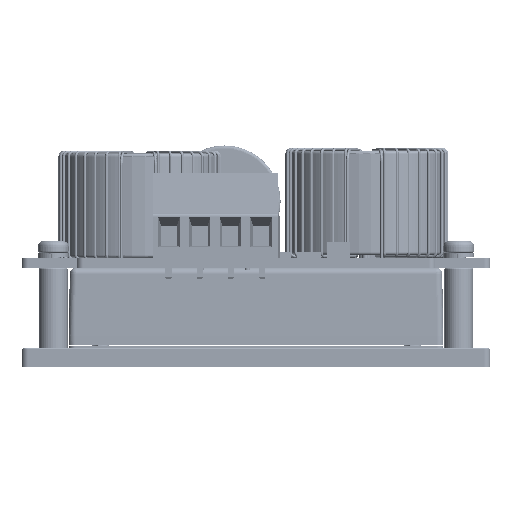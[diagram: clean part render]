
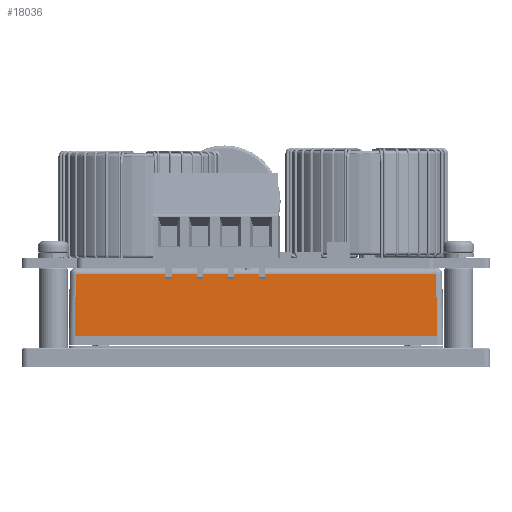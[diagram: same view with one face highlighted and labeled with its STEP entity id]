
A CAD part, left-side view. The second image highlights one B-rep face of the part: STEP entity #18036.
In plain terms, the highlighted planar face has unit normal (-1, 0, 0.018).
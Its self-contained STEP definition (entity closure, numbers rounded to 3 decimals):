
#4980 = EDGE_CURVE ( 'NONE', #71227, #32363, #12271, .T. ) ;
#5337 = DIRECTION ( 'NONE',  ( 0.017, 0., 1. ) ) ;
#12271 = LINE ( 'NONE', #92542, #131947 ) ;
#15428 = EDGE_CURVE ( 'NONE', #27130, #71227, #134105, .T. ) ;
#18036 = ADVANCED_FACE ( 'NONE', ( #85616 ), #61409, .T. ) ;
#20561 = VERTEX_POINT ( 'NONE', #118496 ) ;
#22265 = EDGE_CURVE ( 'NONE', #20561, #27130, #72278, .T. ) ;
#25091 = EDGE_LOOP ( 'NONE', ( #30552, #56470, #107989, #54693 ) ) ;
#27130 = VERTEX_POINT ( 'NONE', #94995 ) ;
#30307 = CARTESIAN_POINT ( 'NONE',  ( -18.618, -14.295, -12.717 ) ) ;
#30552 = ORIENTED_EDGE ( 'NONE', *, *, #22265, .T. ) ;
#32363 = VERTEX_POINT ( 'NONE', #109889 ) ;
#33496 = CARTESIAN_POINT ( 'NONE',  ( -18.599, 44.687, -11.653 ) ) ;
#45426 = EDGE_CURVE ( 'NONE', #32363, #20561, #68337, .T. ) ;
#52945 = VECTOR ( 'NONE', #83658, 1000. ) ;
#54693 = ORIENTED_EDGE ( 'NONE', *, *, #45426, .T. ) ;
#56470 = ORIENTED_EDGE ( 'NONE', *, *, #15428, .T. ) ;
#61409 = PLANE ( 'NONE',  #149747 ) ;
#68337 = LINE ( 'NONE', #33496, #133370 ) ;
#71227 = VERTEX_POINT ( 'NONE', #121603 ) ;
#72278 = LINE ( 'NONE', #129156, #52945 ) ;
#76497 = DIRECTION ( 'NONE',  ( 0.017, 0.017, 1. ) ) ;
#77267 = VECTOR ( 'NONE', #76497, 1000. ) ;
#83658 = DIRECTION ( 'NONE',  ( 0., -1., 0. ) ) ;
#85616 = FACE_OUTER_BOUND ( 'NONE', #25091, .T. ) ;
#92542 = CARTESIAN_POINT ( 'NONE',  ( -18.441, 45.511, -2.583 ) ) ;
#94995 = CARTESIAN_POINT ( 'NONE',  ( -18.617, -14.295, -12.7 ) ) ;
#107989 = ORIENTED_EDGE ( 'NONE', *, *, #4980, .T. ) ;
#109889 = CARTESIAN_POINT ( 'NONE',  ( -18.441, 44.529, -2.583 ) ) ;
#115285 = DIRECTION ( 'NONE',  ( 0., 1., 0. ) ) ;
#118496 = CARTESIAN_POINT ( 'NONE',  ( -18.617, 44.705, -12.7 ) ) ;
#121603 = CARTESIAN_POINT ( 'NONE',  ( -18.441, -14.119, -2.583 ) ) ;
#129156 = CARTESIAN_POINT ( 'NONE',  ( -18.617, 45.705, -12.7 ) ) ;
#131947 = VECTOR ( 'NONE', #115285, 1000. ) ;
#133370 = VECTOR ( 'NONE', #136565, 1000. ) ;
#134105 = LINE ( 'NONE', #30307, #77267 ) ;
#136565 = DIRECTION ( 'NONE',  ( -0.017, 0.017, -1. ) ) ;
#141746 = CARTESIAN_POINT ( 'NONE',  ( -18.617, -15.295, -12.7 ) ) ;
#142494 = DIRECTION ( 'NONE',  ( -1., 0., 0.017 ) ) ;
#149747 = AXIS2_PLACEMENT_3D ( 'NONE', #141746, #142494, #5337 ) ;
